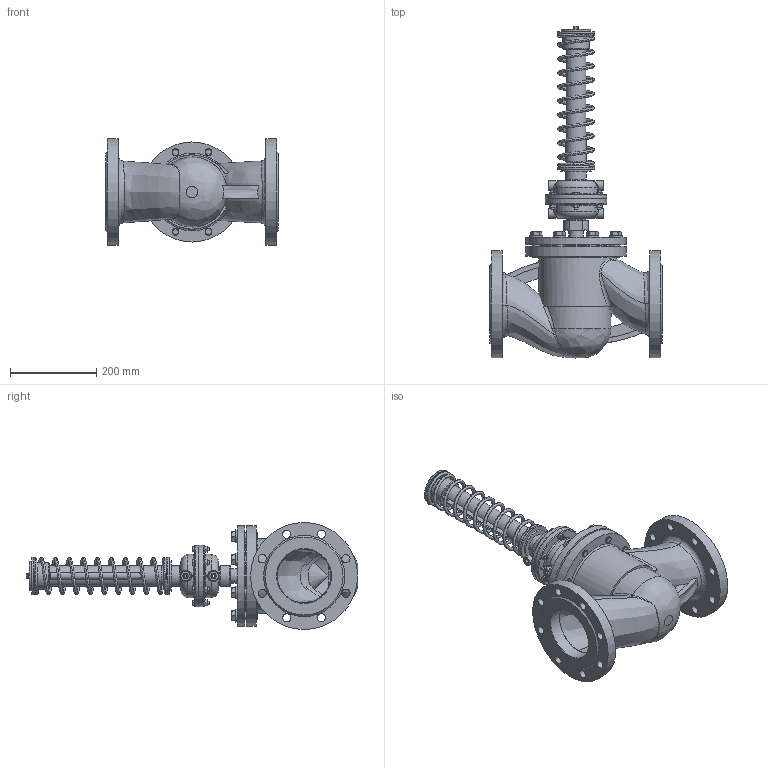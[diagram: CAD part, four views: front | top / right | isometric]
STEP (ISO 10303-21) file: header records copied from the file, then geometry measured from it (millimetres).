
FILE_DESCRIPTION(('STEP AP203'), '1');
FILE_NAME('ra-m_125_1z2_31_42_002', '2016-02-02T11:20:25', (''), (''), 'ASCON STEP Converter 1.3', 'ASCON Math Kernel', '');
FILE_SCHEMA(('CONFIG_CONTROL_DESIGN'));
Length unit declared in the file: millimetre
Products named in the file (82): 423; 424; 425; 426; 427; 428; 429; 430; 431; 432; 433; 434; 435; 436; 437; 438; 439; 440; 441; 442; 443; 444; 445; 446; 447; 448; 449; 450; 451; 452; 453; 454; 455; 456; 457; 458; 459; 460; 461; 462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
Assembly tree (81 placements, depth 2):
  423
    424
    425
    426
    427
    428
    429
    430
    431
    432
    433
    434
    435
    436
    437
    438
    439
    440
    441
    442
    443
    444
    445
    446
    447
    448
    449
    450
    451
    452
    453
    454
    455
    456
    457
    458
    459
    460
    461
    462
    463
    464
    465
    466
    467
    468
    469
    470
    471
    472
    473
    474
    475
    476
    477
    478
    479
    480
    481
    482
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Bounding box: 400 x 770 x 248 mm (x, y, z)
Volume: 6845692.8 mm3; surface area: 1346598.7 mm2
Topology: 44 solids, 83 shells, 906 faces, 2069 edges, 1330 vertices
Faces by surface type: plane 349, cylinder 280, cone 119, bspline 86, torus 72
Full cylindrical faces by diameter (mm): 2 x1, 4 x1, 5 x1, 6 x1, 6.5 x7, 6.6 x6, 7 x4, 8 x12, 9 x12, 10.5 x4, 11 x2, 12 x7, 13.7 x1, 14 x17, 14.5 x2, 15 x3, 16 x18, 17 x8, 19 x24, 20 x6, 22 x4, 26.4 x1, 28 x1, 30 x12, 31.5 x1, 33.8 x1, 34 x3, 34.5 x1, 36 x2, 36.7 x1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
Entity records: 72450 total; most frequent: CARTESIAN_POINT 41796, ORIENTED_EDGE 3966, DIRECTION 3937, EDGE_CURVE 2062, AXIS2_PLACEMENT_3D 1640, VERTEX_POINT 1330, EDGE_LOOP 1155, ADVANCED_FACE 906
